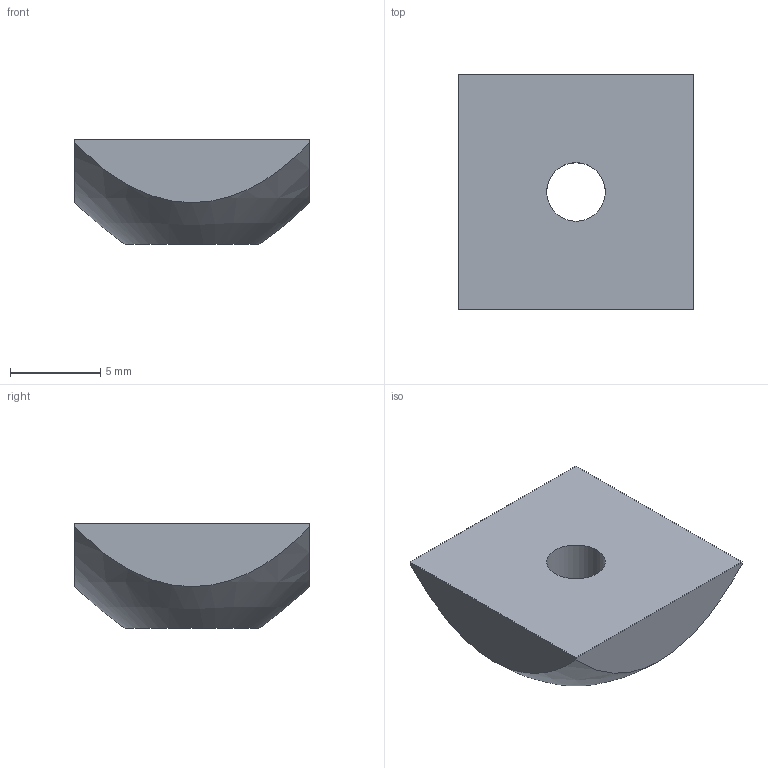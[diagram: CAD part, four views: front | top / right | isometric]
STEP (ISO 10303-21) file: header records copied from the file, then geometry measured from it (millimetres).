
FILE_DESCRIPTION(/* description */ ('Inserto filettato M5'),/* implementation_level */ '2;1');
FILE_NAME(/* name */ 'C:\Users\Stefan.Nesic\Desktop\01010STEP\N13-08-M4.stp',/* time_stamp */ '2022-06-23T11:40:16+02:00',/* author */ (''),/* organization */ (''),/* preprocessor_version */ 'ST-DEVELOPER v18.1',/* originating_system */ 'Autodesk Inventor 2021',/* authorisation */ '');
FILE_SCHEMA (('AUTOMOTIVE_DESIGN { 1 0 10303 214 3 1 1 }'));
Length unit declared in the file: millimetre
Products named in the file (1): DQ32-40
Bounding box: 13 x 13 x 5.8 mm (x, y, z)
Volume: 709.6 mm3; surface area: 551.6 mm2
Topology: 1 solids, 1 shells, 8 faces, 18 edges, 12 vertices
Faces by surface type: plane 6, bspline 1, cylinder 1
Full cylindrical faces by diameter (mm): 3.242 x1
Entity records: 366 total; most frequent: CARTESIAN_POINT 152, ORIENTED_EDGE 36, DIRECTION 31, EDGE_CURVE 18, VERTEX_POINT 12, AXIS2_PLACEMENT_3D 11, EDGE_LOOP 10, LINE 9
